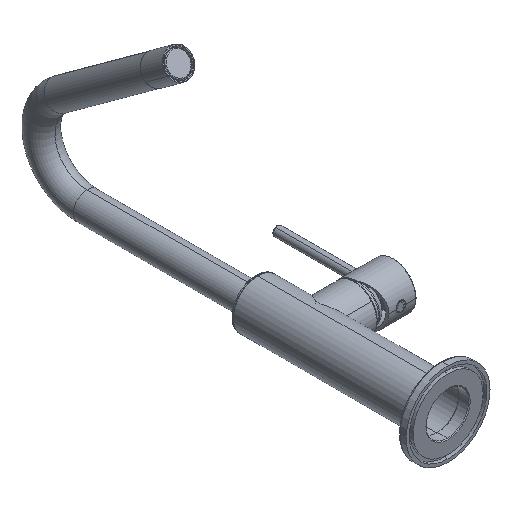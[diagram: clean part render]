
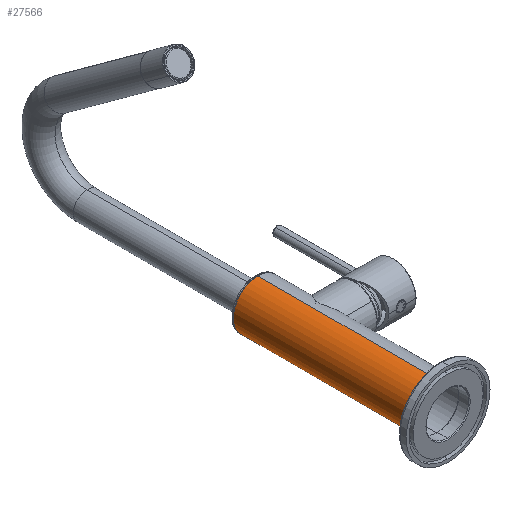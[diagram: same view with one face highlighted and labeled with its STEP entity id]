
A CAD part, isometric view. The second image highlights one B-rep face of the part: STEP entity #27566.
In plain terms, the highlighted cylindrical face has radius 16 mm (diameter 32 mm), a partial arc.
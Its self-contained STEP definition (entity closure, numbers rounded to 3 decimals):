
#483 = CIRCLE ( 'NONE', #16653, 16. ) ;
#698 = CARTESIAN_POINT ( 'NONE',  ( 0., 0., 120. ) ) ;
#1624 = CARTESIAN_POINT ( 'NONE',  ( -16., 0., 0. ) ) ;
#1632 = LINE ( 'NONE', #5000, #24047 ) ;
#2110 = AXIS2_PLACEMENT_3D ( 'NONE', #698, #23296, #23516 ) ;
#2658 = DIRECTION ( 'NONE',  ( 0., 0., 1. ) ) ;
#2809 = CARTESIAN_POINT ( 'NONE',  ( -16., 0., 120. ) ) ;
#5000 = CARTESIAN_POINT ( 'NONE',  ( -16., 0., 120. ) ) ;
#5528 = VERTEX_POINT ( 'NONE', #12150 ) ;
#7363 = ORIENTED_EDGE ( 'NONE', *, *, #32743, .F. ) ;
#9659 = ORIENTED_EDGE ( 'NONE', *, *, #25702, .F. ) ;
#9875 = AXIS2_PLACEMENT_3D ( 'NONE', #37273, #24407, #25038 ) ;
#10572 = EDGE_LOOP ( 'NONE', ( #7363, #9659, #29179, #24506 ) ) ;
#11131 = VECTOR ( 'NONE', #16022, 1000. ) ;
#12150 = CARTESIAN_POINT ( 'NONE',  ( 16., 0., 0. ) ) ;
#12334 = DIRECTION ( 'NONE',  ( 1., 0., 0. ) ) ;
#12625 = CARTESIAN_POINT ( 'NONE',  ( 16., 0., 120. ) ) ;
#16022 = DIRECTION ( 'NONE',  ( 0., 0., -1. ) ) ;
#16500 = VERTEX_POINT ( 'NONE', #30106 ) ;
#16653 = AXIS2_PLACEMENT_3D ( 'NONE', #21457, #2658, #12334 ) ;
#17202 = EDGE_CURVE ( 'NONE', #27431, #29181, #1632, .T. ) ;
#21457 = CARTESIAN_POINT ( 'NONE',  ( 0., 0., 0. ) ) ;
#23296 = DIRECTION ( 'NONE',  ( 0., 0., -1. ) ) ;
#23516 = DIRECTION ( 'NONE',  ( -1., 0., 0. ) ) ;
#24047 = VECTOR ( 'NONE', #40041, 1000. ) ;
#24407 = DIRECTION ( 'NONE',  ( 0., 0., 1. ) ) ;
#24506 = ORIENTED_EDGE ( 'NONE', *, *, #25749, .T. ) ;
#25038 = DIRECTION ( 'NONE',  ( 1., 0., 0. ) ) ;
#25702 = EDGE_CURVE ( 'NONE', #27431, #16500, #40919, .T. ) ;
#25749 = EDGE_CURVE ( 'NONE', #29181, #5528, #483, .T. ) ;
#27431 = VERTEX_POINT ( 'NONE', #2809 ) ;
#27566 = ADVANCED_FACE ( 'NONE', ( #33408 ), #33015, .T. ) ;
#29179 = ORIENTED_EDGE ( 'NONE', *, *, #17202, .T. ) ;
#29181 = VERTEX_POINT ( 'NONE', #1624 ) ;
#30106 = CARTESIAN_POINT ( 'NONE',  ( 16., 0., 120. ) ) ;
#32743 = EDGE_CURVE ( 'NONE', #16500, #5528, #41578, .T. ) ;
#33015 = CYLINDRICAL_SURFACE ( 'NONE', #2110, 16. ) ;
#33408 = FACE_OUTER_BOUND ( 'NONE', #10572, .T. ) ;
#37273 = CARTESIAN_POINT ( 'NONE',  ( 0., 0., 120. ) ) ;
#40041 = DIRECTION ( 'NONE',  ( 0., 0., -1. ) ) ;
#40919 = CIRCLE ( 'NONE', #9875, 16. ) ;
#41578 = LINE ( 'NONE', #12625, #11131 ) ;
